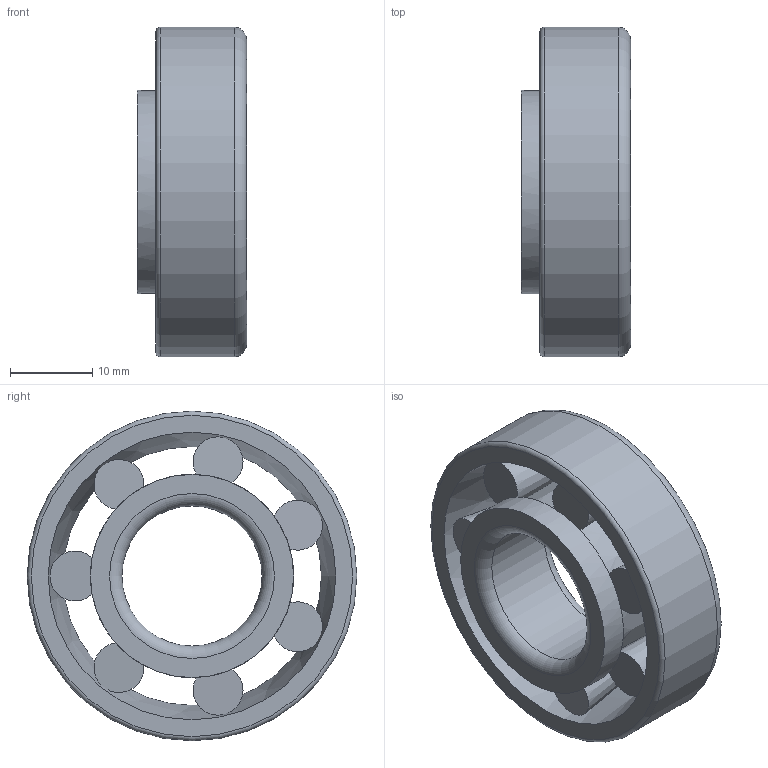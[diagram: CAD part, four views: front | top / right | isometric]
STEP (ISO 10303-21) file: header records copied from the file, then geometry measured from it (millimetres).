
FILE_DESCRIPTION(/* description */ ('테이퍼 롤러 베어링'),/* implementation_level */ '2;1');
FILE_NAME(/* name */ '',/* time_stamp */ '2026-07-02T16:36:40+09:00',/* author */ ('jhkim'),/* organization */ (''),/* preprocessor_version */ 'ST-DEVELOPER v20.1',/* originating_system */ 'Autodesk Inventor 2027',/* authorisation */ '');
FILE_SCHEMA (('AUTOMOTIVE_DESIGN { 1 0 10303 214 3 1 1 }'));
Length unit declared in the file: millimetre
Products named in the file (1): 테이퍼 롤러 베어링 
30203
Bounding box: 13.25 x 40 x 40 mm (x, y, z)
Volume: 7871.6 mm3; surface area: 6510.4 mm2
Topology: 2 solids, 2 shells, 62 faces, 146 edges, 81 vertices
Faces by surface type: cone 36, plane 18, cylinder 4, torus 4
Full cylindrical faces by diameter (mm): 17 x1, 23.246 x1, 24.668 x1, 40 x1
Entity records: 1960 total; most frequent: CARTESIAN_POINT 437, DIRECTION 336, ORIENTED_EDGE 306, EDGE_CURVE 153, AXIS2_PLACEMENT_3D 148, VERTEX_POINT 81, CIRCLE 78, EDGE_LOOP 66
